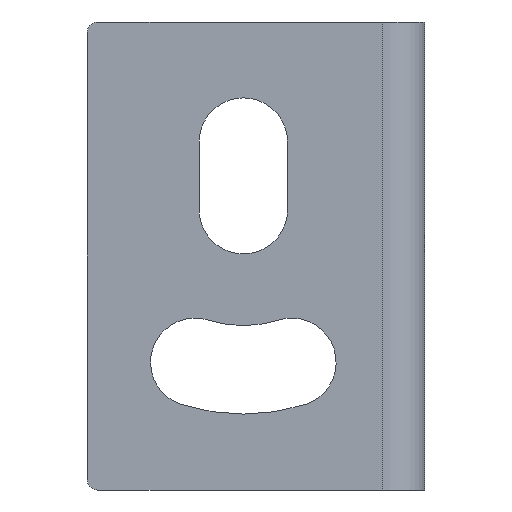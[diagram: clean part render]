
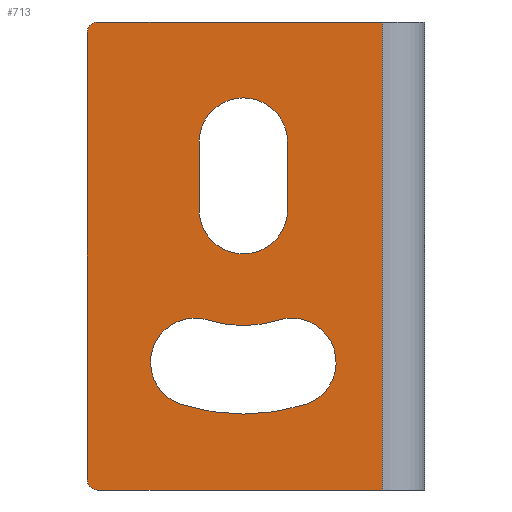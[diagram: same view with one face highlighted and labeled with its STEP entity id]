
A CAD part, front view. The second image highlights one B-rep face of the part: STEP entity #713.
In plain terms, the highlighted planar face has unit normal (0, -1, 0).
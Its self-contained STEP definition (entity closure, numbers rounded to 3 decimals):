
#51=FACE_BOUND('',#106,.T.);
#52=FACE_BOUND('',#107,.T.);
#59=FACE_OUTER_BOUND('',#105,.T.);
#105=EDGE_LOOP('',(#539,#540,#541,#542,#543,#544));
#106=EDGE_LOOP('',(#545,#546,#547,#548));
#107=EDGE_LOOP('',(#549,#550,#551,#552));
#181=CIRCLE('',#798,0.5);
#182=CIRCLE('',#799,0.5);
#183=CIRCLE('',#800,9.7);
#184=CIRCLE('',#801,2.1);
#185=CIRCLE('',#802,5.5);
#186=CIRCLE('',#803,2.1);
#187=CIRCLE('',#804,2.1);
#188=CIRCLE('',#805,2.1);
#209=LINE('',#1188,#261);
#213=LINE('',#1199,#265);
#214=LINE('',#1202,#266);
#215=LINE('',#1204,#267);
#216=LINE('',#1218,#268);
#217=LINE('',#1221,#269);
#261=VECTOR('',#941,13.5);
#265=VECTOR('',#951,21.2);
#266=VECTOR('',#954,22.2);
#267=VECTOR('',#955,13.5);
#268=VECTOR('',#968,3.2);
#269=VECTOR('',#971,3.2);
#347=VERTEX_POINT('',#1186);
#348=VERTEX_POINT('',#1187);
#351=VERTEX_POINT('',#1197);
#352=VERTEX_POINT('',#1198);
#353=VERTEX_POINT('',#1201);
#354=VERTEX_POINT('',#1203);
#355=VERTEX_POINT('',#1206);
#356=VERTEX_POINT('',#1207);
#357=VERTEX_POINT('',#1209);
#358=VERTEX_POINT('',#1211);
#359=VERTEX_POINT('',#1214);
#360=VERTEX_POINT('',#1215);
#361=VERTEX_POINT('',#1217);
#362=VERTEX_POINT('',#1219);
#421=EDGE_CURVE('',#347,#348,#209,.T.);
#427=EDGE_CURVE('',#351,#352,#213,.T.);
#428=EDGE_CURVE('',#351,#348,#181,.T.);
#429=EDGE_CURVE('',#353,#347,#214,.T.);
#430=EDGE_CURVE('',#353,#354,#215,.T.);
#431=EDGE_CURVE('',#354,#352,#182,.T.);
#432=EDGE_CURVE('',#355,#356,#183,.T.);
#433=EDGE_CURVE('',#356,#357,#184,.T.);
#434=EDGE_CURVE('',#357,#358,#185,.T.);
#435=EDGE_CURVE('',#358,#355,#186,.T.);
#436=EDGE_CURVE('',#359,#360,#187,.T.);
#437=EDGE_CURVE('',#361,#360,#216,.T.);
#438=EDGE_CURVE('',#361,#362,#188,.T.);
#439=EDGE_CURVE('',#359,#362,#217,.T.);
#539=ORIENTED_EDGE('',*,*,#427,.F.);
#540=ORIENTED_EDGE('',*,*,#428,.T.);
#541=ORIENTED_EDGE('',*,*,#421,.F.);
#542=ORIENTED_EDGE('',*,*,#429,.F.);
#543=ORIENTED_EDGE('',*,*,#430,.T.);
#544=ORIENTED_EDGE('',*,*,#431,.T.);
#545=ORIENTED_EDGE('',*,*,#432,.T.);
#546=ORIENTED_EDGE('',*,*,#433,.T.);
#547=ORIENTED_EDGE('',*,*,#434,.T.);
#548=ORIENTED_EDGE('',*,*,#435,.T.);
#549=ORIENTED_EDGE('',*,*,#436,.T.);
#550=ORIENTED_EDGE('',*,*,#437,.F.);
#551=ORIENTED_EDGE('',*,*,#438,.T.);
#552=ORIENTED_EDGE('',*,*,#439,.F.);
#703=PLANE('',#797);
#713=ADVANCED_FACE('',(#59,#51,#52),#703,.F.);
#797=AXIS2_PLACEMENT_3D('',#1196,#949,#950);
#798=AXIS2_PLACEMENT_3D('',#1200,#952,#953);
#799=AXIS2_PLACEMENT_3D('',#1205,#956,#957);
#800=AXIS2_PLACEMENT_3D('',#1208,#958,#959);
#801=AXIS2_PLACEMENT_3D('',#1210,#960,#961);
#802=AXIS2_PLACEMENT_3D('',#1212,#962,#963);
#803=AXIS2_PLACEMENT_3D('',#1213,#964,#965);
#804=AXIS2_PLACEMENT_3D('',#1216,#966,#967);
#805=AXIS2_PLACEMENT_3D('',#1220,#969,#970);
#941=DIRECTION('',(-1.,0.,0.));
#949=DIRECTION('center_axis',(0.,1.,0.));
#950=DIRECTION('ref_axis',(-1.,0.,0.));
#951=DIRECTION('',(0.,0.,1.));
#952=DIRECTION('center_axis',(0.,-1.,0.));
#953=DIRECTION('ref_axis',(-1.,0.,0.));
#954=DIRECTION('',(0.,0.,-1.));
#955=DIRECTION('',(-1.,0.,0.));
#956=DIRECTION('center_axis',(0.,-1.,0.));
#957=DIRECTION('ref_axis',(0.,0.,1.));
#958=DIRECTION('center_axis',(0.,1.,0.));
#959=DIRECTION('ref_axis',(0.303,0.,-0.953));
#960=DIRECTION('center_axis',(0.,1.,0.));
#961=DIRECTION('ref_axis',(-0.303,0.,-0.953));
#962=DIRECTION('center_axis',(0.,-1.,0.));
#963=DIRECTION('ref_axis',(-0.303,0.,-0.953));
#964=DIRECTION('center_axis',(0.,1.,0.));
#965=DIRECTION('ref_axis',(-0.303,0.,0.953));
#966=DIRECTION('center_axis',(0.,1.,0.));
#967=DIRECTION('ref_axis',(1.,0.,0.));
#968=DIRECTION('',(0.,0.,-1.));
#969=DIRECTION('center_axis',(0.,1.,0.));
#970=DIRECTION('ref_axis',(-1.,0.,0.));
#971=DIRECTION('',(0.,0.,1.));
#1186=CARTESIAN_POINT('',(-1.,-32.5,0.));
#1187=CARTESIAN_POINT('',(-14.5,-32.5,0.));
#1188=CARTESIAN_POINT('',(-1.,-32.5,0.));
#1196=CARTESIAN_POINT('Origin',(-15.,-32.5,22.2));
#1197=CARTESIAN_POINT('',(-15.,-32.5,0.5));
#1198=CARTESIAN_POINT('',(-15.,-32.5,21.7));
#1199=CARTESIAN_POINT('',(-15.,-32.5,0.5));
#1200=CARTESIAN_POINT('Origin',(-14.5,-32.5,0.5));
#1201=CARTESIAN_POINT('',(-1.,-32.5,22.2));
#1202=CARTESIAN_POINT('',(-1.,-32.5,22.2));
#1203=CARTESIAN_POINT('',(-14.5,-32.5,22.2));
#1204=CARTESIAN_POINT('',(-1.,-32.5,22.2));
#1205=CARTESIAN_POINT('Origin',(-14.5,-32.5,21.7));
#1206=CARTESIAN_POINT('',(-4.664,-32.5,4.055));
#1207=CARTESIAN_POINT('',(-10.536,-32.5,4.055));
#1208=CARTESIAN_POINT('Origin',(-7.6,-32.5,13.3));
#1209=CARTESIAN_POINT('',(-9.264,-32.5,8.058));
#1210=CARTESIAN_POINT('Origin',(-9.9,-32.5,6.056));
#1211=CARTESIAN_POINT('',(-5.936,-32.5,8.058));
#1212=CARTESIAN_POINT('Origin',(-7.6,-32.5,13.3));
#1213=CARTESIAN_POINT('Origin',(-5.3,-32.5,6.056));
#1214=CARTESIAN_POINT('',(-5.5,-32.5,13.3));
#1215=CARTESIAN_POINT('',(-9.7,-32.5,13.3));
#1216=CARTESIAN_POINT('Origin',(-7.6,-32.5,13.3));
#1217=CARTESIAN_POINT('',(-9.7,-32.5,16.5));
#1218=CARTESIAN_POINT('',(-9.7,-32.5,16.5));
#1219=CARTESIAN_POINT('',(-5.5,-32.5,16.5));
#1220=CARTESIAN_POINT('Origin',(-7.6,-32.5,16.5));
#1221=CARTESIAN_POINT('',(-5.5,-32.5,13.3));
